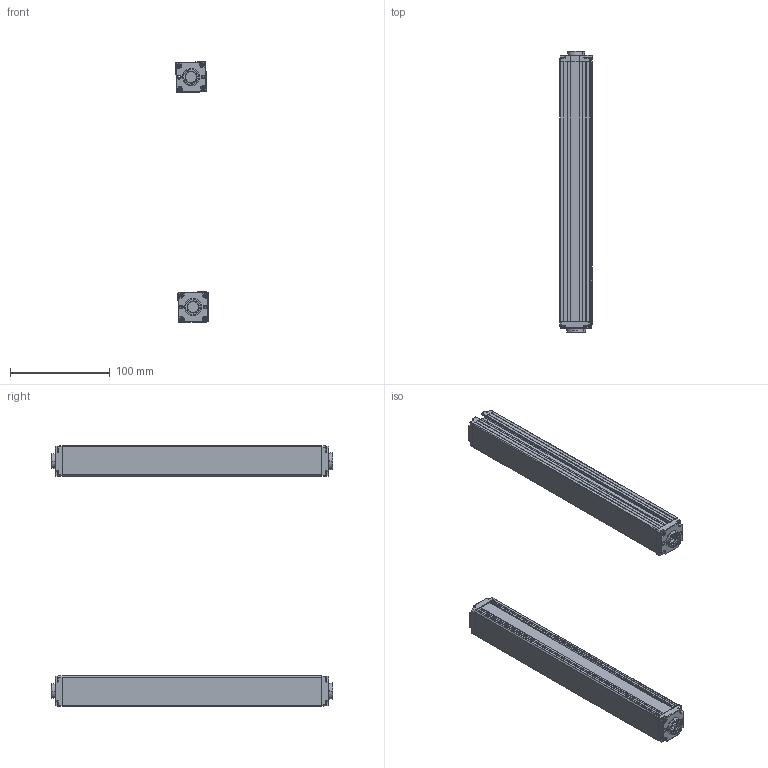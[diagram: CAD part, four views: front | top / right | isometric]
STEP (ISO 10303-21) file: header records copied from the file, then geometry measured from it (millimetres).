
FILE_DESCRIPTION (( 'STEP AP203' ), '1' );
FILE_NAME ('ZDA2410-260.STEP', '2022-08-30T03:39:28', ( 'Windows 蚚誧' ), ( 'Organization' ), 'SwSTEP 2.0', 'SolidWorks 2020', '' );
FILE_SCHEMA (( 'CONFIG_CONTROL_DESIGN' ));
Length unit declared in the file: millimetre
Products named in the file (5): 錨璃1; 錨璃8; 錨璃8 - 萵掛 (2); 錨璃10; ZDA2410-260
Assembly tree (8 placements, depth 2):
  ZDA2410-260
    錨璃1  x2
    錨璃8  x2
    錨璃8 - 萵掛 (2)  x2
    錨璃10  x2
Bounding box: 32.36 x 281.4 x 260.35 mm (x, y, z)
Volume: 173741.7 mm3; surface area: 186318.2 mm2
Topology: 8 solids, 8 shells, 1032 faces, 2690 edges, 1668 vertices
Faces by surface type: plane 464, cylinder 310, cone 120, bspline 58, torus 48, sphere 32
Entity records: 17901 total; most frequent: CARTESIAN_POINT 4731, ORIENTED_EDGE 2666, DIRECTION 2616, EDGE_CURVE 1333, AXIS2_PLACEMENT_3D 894, VERTEX_POINT 834, LINE 828, VECTOR 828
